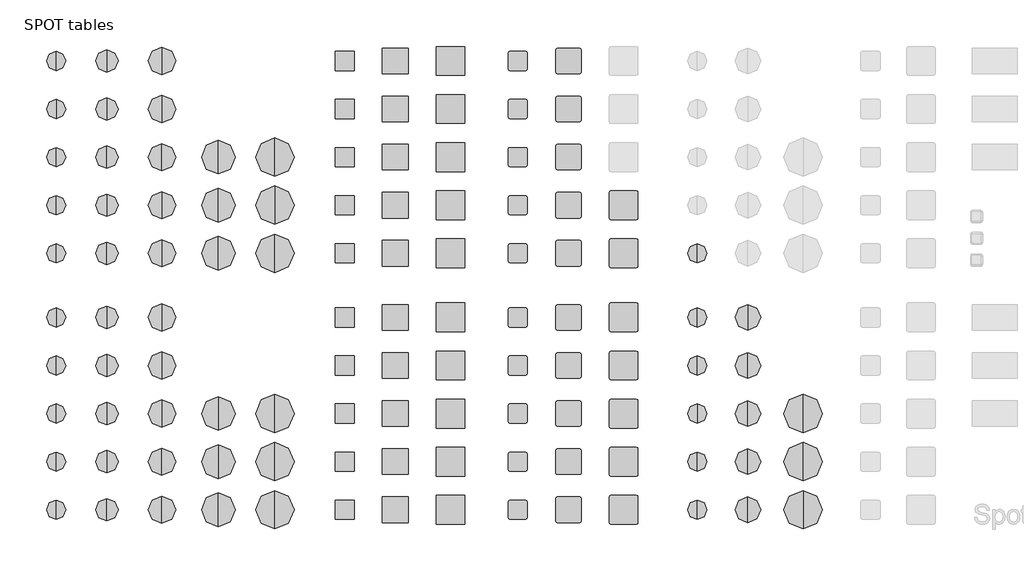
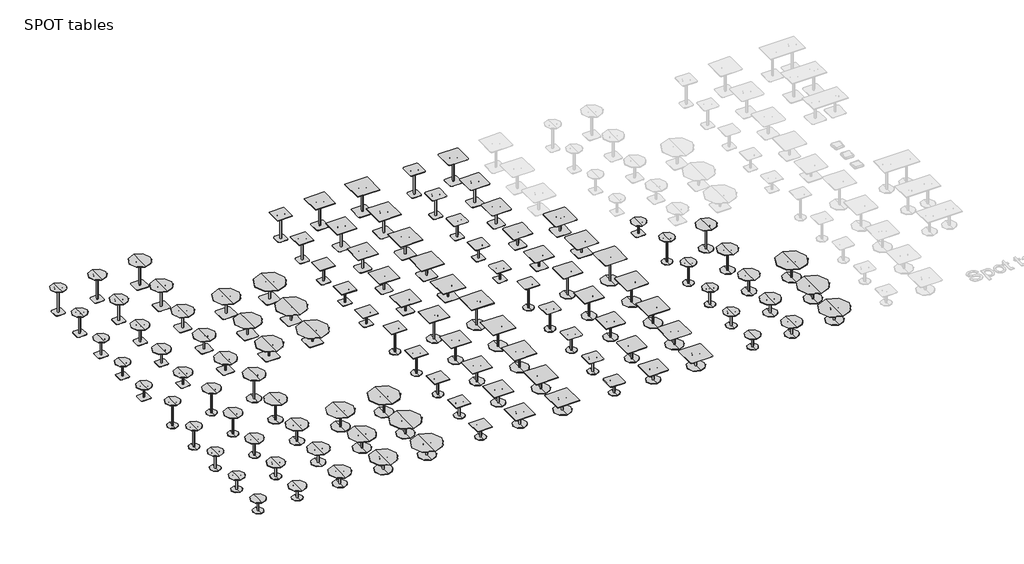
# One storey, part 1 of 2: 113 furniture elements.
"""IFC4 building model written with IfcOpenShell, lengths in millimetres."""

from ifc_helpers import new_model, si_unit, origin, place, context, project, spatial, transform, mapped, element, save
from components import spot_788d22cf, spot_77f59f46, spot_f92d73a3, spot_7a6d4907, spot_b00c288a, spot_5c1fb740, spot_8f7e254e, spot_f1b3041a, spot_e71004df, spot_e152b922, spot_dc493906, spot_94203717, spot_397b3017, spot_722c7204, spot_2d7e0fac, spot_172ff6e7, spot_859ae4ff, spot_044e7cc1, spot_855ccbda, spot_d83fc2bb, spot_dde6724e, spot_dc8d1580, spot_db446fd1, spot_7c4215b9, spot_16825962, spot_6ba45eee, spot_5e38e100, spot_d553f32d, spot_18fd03e7, spot_0e79f22b, spot_07b8c2ec, spot_2f719e33, spot_8b0f4b8c, spot_33e118e5, spot_6a54facb, spot_912e1f16, spot_f8256496, spot_ff8b2383, spot_f8e46d7b, spot_9efdca79, spot_f74180ac, spot_1583ca4d, spot_0e4fbe69, spot_f8519775, spot_78ec0b63, spot_0f59d7b9, spot_e74a4429, spot_76f3e95e, spot_e5f4c73c, spot_442aa7c8, spot_60x60x105_dea08df1, spot_60x60x105s_a13521a9, spot_60x60x52_7f1a1400, spot_60x60x52s_42c6ff7e, spot_60x60x60_39b3866d, spot_60x60x60s_075ac10b, spot_60x60x72_564218d8, spot_60x60x72s_653c7a8f, spot_60x60x90_c5017e09, spot_60x60x90s_9f3c50d7, spot_80x80x105_011185f3, spot_80x80x105s_d37524c9, spot_80x80x52_e6303654, spot_80x80x52s_1c6ba555, spot_80x80x60_5c8a2310, spot_80x80x60s_08ea5ed7, spot_80x80x72_5e2f6118, spot_80x80x72s_e60da51a, spot_80x80x90_f4485f4f, spot_80x80x90s_3f7a378e, spot_90x90x105_c4fba47d, spot_90x90x105s_59163803, spot_90x90x52_e2c43a36, spot_90x90x52s_cfe0d6f2, spot_90x90x60_5f5d6312, spot_90x90x60s_4290bd5d, spot_90x90x72_129e7565, spot_90x90x72s_e86aca1a, spot_90x90x90_a43f632c, spot_90x90x90s_c2216ceb, spot_b60x60x105_59c6a68b, spot_b60x60x105s_55f89e0a, spot_r60x60x52_19da6469, spot_b60x60x52s_51aa52b7, spot_b60x60x60_533987e2, spot_b60x60x60s_f05c2b11, spot_b60x60x72_e15ce815, spot_b60x60x72s_45c11713, spot_b60x60x90_900ca555, spot_b60x60x90s_d0aa6e54, spot_r80x80x105_da313f87, spot_r80x80x105s_0859b372, spot_r80x80x52_d650c14f, spot_r80x80x52s_7f408e5c, spot_r80x80x60_7e8cd580, spot_r80x80x60s_60a7aa05, spot_r80x80x72_c527adf2, spot_r80x80x72s_9ad5746e, spot_r80x80x90_a1dbbd4d, spot_r80x80x90s_71675172, spot_b90x90x105_485e2d16, spot_b90x90x52_c7cd3348, spot_b90x90x52s_b3a2c666, spot_b90x90x60_5a79fd71, spot_b90x90x60s_c98173cc, spot_b90x90x72_0c4ef9b4, spot_b90x90x90_36fc2e03

model = new_model("IFC4")

# Units and contexts
model_context = context("Model", 3, world=origin())
ifc_project = project(units=[si_unit("LENGTHUNIT", "METRE", prefix="MILLI")], contexts=[model_context])

# Site, building, storey
site = spatial("IfcSite", under=ifc_project)
building = spatial("IfcBuilding", under=site)
storey = spatial("IfcBuildingStorey", under=building, Name="SPOT tables", Elevation=0.0)

# Furniture
placement = place(None, origin())
spot_shape = spot_788d22cf(model_context)
element("IfcFurniture", 1, ObjectType="Spot : ø60x52", at=placement, inside=storey, context=model_context, shape_type="MappedRepresentation", body=[
    mapped(spot_shape, transform((-8578.4077201, 625.7539204, 0.0), x_axis=(1.0, 0.0, 0.0), y_axis=(0.0, 1.0, 0.0), z_axis=(0.0, 0.0, 1.0))),
])
spot_2_shape = spot_77f59f46(model_context)
element("IfcFurniture", 2, ObjectType="Spot : ø60x60", at=placement, inside=storey, context=model_context, shape_type="MappedRepresentation", body=[
    mapped(spot_2_shape, transform((-8578.4077201, 2125.7539204, 0.0), x_axis=(1.0, 0.0, 0.0), y_axis=(0.0, 1.0, 0.0), z_axis=(0.0, 0.0, 1.0))),
])
spot_3_shape = spot_f92d73a3(model_context)
element("IfcFurniture", 3, ObjectType="Spot : ø60x72", at=placement, inside=storey, context=model_context, shape_type="MappedRepresentation", body=[
    mapped(spot_3_shape, transform((-8578.4077201, 3625.7539204, 0.0), x_axis=(1.0, 0.0, 0.0), y_axis=(0.0, 1.0, 0.0), z_axis=(0.0, 0.0, 1.0))),
])
spot_4_shape = spot_7a6d4907(model_context)
element("IfcFurniture", 4, ObjectType="Spot : ø60x90", at=placement, inside=storey, context=model_context, shape_type="MappedRepresentation", body=[
    mapped(spot_4_shape, transform((-8578.4077201, 5125.7539204, 0.0), x_axis=(1.0, 0.0, 0.0), y_axis=(0.0, 1.0, 0.0), z_axis=(0.0, 0.0, 1.0))),
])
spot_5_shape = spot_b00c288a(model_context)
element("IfcFurniture", 5, ObjectType="Spot : ø60x105", at=placement, inside=storey, context=model_context, shape_type="MappedRepresentation", body=[
    mapped(spot_5_shape, transform((-8578.4077201, 6625.7539204, 0.0), x_axis=(1.0, 0.0, 0.0), y_axis=(0.0, 1.0, 0.0), z_axis=(0.0, 0.0, 1.0))),
])
spot_6_shape = spot_5c1fb740(model_context)
element("IfcFurniture", 6, ObjectType="Spot : ø70x52", at=placement, inside=storey, context=model_context, shape_type="MappedRepresentation", body=[
    mapped(spot_6_shape, transform((-6998.4077201, 625.7539204, 0.0), x_axis=(1.0, 0.0, 0.0), y_axis=(0.0, 1.0, 0.0), z_axis=(0.0, 0.0, 1.0))),
])
spot_7_shape = spot_8f7e254e(model_context)
element("IfcFurniture", 7, ObjectType="Spot : ø70x60", at=placement, inside=storey, context=model_context, shape_type="MappedRepresentation", body=[
    mapped(spot_7_shape, transform((-6998.4077201, 2125.7539204, 0.0), x_axis=(1.0, 0.0, 0.0), y_axis=(0.0, 1.0, 0.0), z_axis=(0.0, 0.0, 1.0))),
])
spot_8_shape = spot_f1b3041a(model_context)
element("IfcFurniture", 8, ObjectType="Spot : ø70x72", at=placement, inside=storey, context=model_context, shape_type="MappedRepresentation", body=[
    mapped(spot_8_shape, transform((-6998.4077201, 3625.7539204, 0.0), x_axis=(1.0, 0.0, 0.0), y_axis=(0.0, 1.0, 0.0), z_axis=(0.0, 0.0, 1.0))),
])
spot_9_shape = spot_e71004df(model_context)
element("IfcFurniture", 9, ObjectType="Spot : ø70x90", at=placement, inside=storey, context=model_context, shape_type="MappedRepresentation", body=[
    mapped(spot_9_shape, transform((-6998.4077201, 5125.7539204, 0.0), x_axis=(1.0, 0.0, 0.0), y_axis=(0.0, 1.0, 0.0), z_axis=(0.0, 0.0, 1.0))),
])
spot_10_shape = spot_e152b922(model_context)
element("IfcFurniture", 10, ObjectType="Spot : ø70x105", at=placement, inside=storey, context=model_context, shape_type="MappedRepresentation", body=[
    mapped(spot_10_shape, transform((-6998.4077201, 6625.7539204, 0.0), x_axis=(1.0, 0.0, 0.0), y_axis=(0.0, 1.0, 0.0), z_axis=(0.0, 0.0, 1.0))),
])
spot_11_shape = spot_dc493906(model_context)
element("IfcFurniture", 11, ObjectType="Spot : ø85x52", at=placement, inside=storey, context=model_context, shape_type="MappedRepresentation", body=[
    mapped(spot_11_shape, transform((-5278.4077201, 625.7539204, 0.0), x_axis=(1.0, 0.0, 0.0), y_axis=(0.0, 1.0, 0.0), z_axis=(0.0, 0.0, 1.0))),
])
spot_12_shape = spot_94203717(model_context)
element("IfcFurniture", 12, ObjectType="Spot : ø85x60", at=placement, inside=storey, context=model_context, shape_type="MappedRepresentation", body=[
    mapped(spot_12_shape, transform((-5278.4077201, 2125.7539204, 0.0), x_axis=(1.0, 0.0, 0.0), y_axis=(0.0, 1.0, 0.0), z_axis=(0.0, 0.0, 1.0))),
])
spot_13_shape = spot_397b3017(model_context)
element("IfcFurniture", 13, ObjectType="Spot : ø85x72", at=placement, inside=storey, context=model_context, shape_type="MappedRepresentation", body=[
    mapped(spot_13_shape, transform((-5278.4077201, 3625.7539204, 0.0), x_axis=(1.0, 0.0, 0.0), y_axis=(0.0, 1.0, 0.0), z_axis=(0.0, 0.0, 1.0))),
])
spot_14_shape = spot_722c7204(model_context)
element("IfcFurniture", 14, ObjectType="Spot : ø85x90", at=placement, inside=storey, context=model_context, shape_type="MappedRepresentation", body=[
    mapped(spot_14_shape, transform((-5278.4077201, 5125.7539204, 0.0), x_axis=(1.0, 0.0, 0.0), y_axis=(0.0, 1.0, 0.0), z_axis=(0.0, 0.0, 1.0))),
])
spot_15_shape = spot_2d7e0fac(model_context)
element("IfcFurniture", 15, ObjectType="Spot : ø85x105", at=placement, inside=storey, context=model_context, shape_type="MappedRepresentation", body=[
    mapped(spot_15_shape, transform((-5278.4077201, 6625.7539204, 0.0), x_axis=(1.0, 0.0, 0.0), y_axis=(0.0, 1.0, 0.0), z_axis=(0.0, 0.0, 1.0))),
])
spot_16_shape = spot_172ff6e7(model_context)
element("IfcFurniture", 16, ObjectType="Spot : ø60x52s", at=placement, inside=storey, context=model_context, shape_type="MappedRepresentation", body=[
    mapped(spot_16_shape, transform((-8578.4077201, 8625.7539204, 0.0), x_axis=(1.0, 0.0, 0.0), y_axis=(0.0, 1.0, 0.0), z_axis=(0.0, 0.0, 1.0))),
])
spot_17_shape = spot_859ae4ff(model_context)
element("IfcFurniture", 17, ObjectType="Spot : ø60x60s", at=placement, inside=storey, context=model_context, shape_type="MappedRepresentation", body=[
    mapped(spot_17_shape, transform((-8578.4077201, 10125.7539204, 0.0), x_axis=(1.0, 0.0, 0.0), y_axis=(0.0, 1.0, 0.0), z_axis=(0.0, 0.0, 1.0))),
])
spot_18_shape = spot_044e7cc1(model_context)
element("IfcFurniture", 18, ObjectType="Spot : ø60x72s", at=placement, inside=storey, context=model_context, shape_type="MappedRepresentation", body=[
    mapped(spot_18_shape, transform((-8578.4077201, 11625.7539204, 0.0), x_axis=(1.0, 0.0, 0.0), y_axis=(0.0, 1.0, 0.0), z_axis=(0.0, 0.0, 1.0))),
])
spot_19_shape = spot_855ccbda(model_context)
element("IfcFurniture", 19, ObjectType="Spot : ø60x90s", at=placement, inside=storey, context=model_context, shape_type="MappedRepresentation", body=[
    mapped(spot_19_shape, transform((-8578.4077201, 13125.7539204, 0.0), x_axis=(1.0, 0.0, 0.0), y_axis=(0.0, 1.0, 0.0), z_axis=(0.0, 0.0, 1.0))),
])
spot_20_shape = spot_d83fc2bb(model_context)
element("IfcFurniture", 20, ObjectType="Spot : ø60x105s", at=placement, inside=storey, context=model_context, shape_type="MappedRepresentation", body=[
    mapped(spot_20_shape, transform((-8578.4077201, 14625.7539204, 0.0), x_axis=(1.0, 0.0, 0.0), y_axis=(0.0, 1.0, 0.0), z_axis=(0.0, 0.0, 1.0))),
])
spot_21_shape = spot_dde6724e(model_context)
element("IfcFurniture", 21, ObjectType="Spot : ø70x52s", at=placement, inside=storey, context=model_context, shape_type="MappedRepresentation", body=[
    mapped(spot_21_shape, transform((-6998.4077201, 8625.7539204, 0.0), x_axis=(1.0, 0.0, 0.0), y_axis=(0.0, 1.0, 0.0), z_axis=(0.0, 0.0, 1.0))),
])
spot_22_shape = spot_dc8d1580(model_context)
element("IfcFurniture", 22, ObjectType="Spot : ø70x60s", at=placement, inside=storey, context=model_context, shape_type="MappedRepresentation", body=[
    mapped(spot_22_shape, transform((-6998.4077201, 10125.7539204, 0.0), x_axis=(1.0, 0.0, 0.0), y_axis=(0.0, 1.0, 0.0), z_axis=(0.0, 0.0, 1.0))),
])
spot_23_shape = spot_db446fd1(model_context)
element("IfcFurniture", 23, ObjectType="Spot : ø70x72s", at=placement, inside=storey, context=model_context, shape_type="MappedRepresentation", body=[
    mapped(spot_23_shape, transform((-6998.4077201, 11625.7539204, 0.0), x_axis=(1.0, 0.0, 0.0), y_axis=(0.0, 1.0, 0.0), z_axis=(0.0, 0.0, 1.0))),
])
spot_24_shape = spot_7c4215b9(model_context)
element("IfcFurniture", 24, ObjectType="Spot : ø70x90s", at=placement, inside=storey, context=model_context, shape_type="MappedRepresentation", body=[
    mapped(spot_24_shape, transform((-6998.4077201, 13125.7539204, 0.0), x_axis=(1.0, 0.0, 0.0), y_axis=(0.0, 1.0, 0.0), z_axis=(0.0, 0.0, 1.0))),
])
spot_25_shape = spot_16825962(model_context)
element("IfcFurniture", 25, ObjectType="Spot : ø70x105s", at=placement, inside=storey, context=model_context, shape_type="MappedRepresentation", body=[
    mapped(spot_25_shape, transform((-6998.4077201, 14625.7539204, 0.0), x_axis=(1.0, 0.0, 0.0), y_axis=(0.0, 1.0, 0.0), z_axis=(0.0, 0.0, 1.0))),
])
spot_26_shape = spot_6ba45eee(model_context)
element("IfcFurniture", 26, ObjectType="Spot : ø85x52s", at=placement, inside=storey, context=model_context, shape_type="MappedRepresentation", body=[
    mapped(spot_26_shape, transform((-5278.4077201, 8625.7539204, 0.0), x_axis=(1.0, 0.0, 0.0), y_axis=(0.0, 1.0, 0.0), z_axis=(0.0, 0.0, 1.0))),
])
spot_27_shape = spot_5e38e100(model_context)
element("IfcFurniture", 27, ObjectType="Spot : ø85x60s", at=placement, inside=storey, context=model_context, shape_type="MappedRepresentation", body=[
    mapped(spot_27_shape, transform((-5278.4077201, 10125.7539204, 0.0), x_axis=(1.0, 0.0, 0.0), y_axis=(0.0, 1.0, 0.0), z_axis=(0.0, 0.0, 1.0))),
])
spot_28_shape = spot_d553f32d(model_context)
element("IfcFurniture", 28, ObjectType="Spot : ø85x72s", at=placement, inside=storey, context=model_context, shape_type="MappedRepresentation", body=[
    mapped(spot_28_shape, transform((-5278.4077201, 11625.7539204, 0.0), x_axis=(1.0, 0.0, 0.0), y_axis=(0.0, 1.0, 0.0), z_axis=(0.0, 0.0, 1.0))),
])
spot_29_shape = spot_18fd03e7(model_context)
element("IfcFurniture", 29, ObjectType="Spot : ø85x90s", at=placement, inside=storey, context=model_context, shape_type="MappedRepresentation", body=[
    mapped(spot_29_shape, transform((-5278.4077201, 13125.7539204, 0.0), x_axis=(1.0, 0.0, 0.0), y_axis=(0.0, 1.0, 0.0), z_axis=(0.0, 0.0, 1.0))),
])
spot_30_shape = spot_0e79f22b(model_context)
element("IfcFurniture", 30, ObjectType="Spot : ø85x105s", at=placement, inside=storey, context=model_context, shape_type="MappedRepresentation", body=[
    mapped(spot_30_shape, transform((-5278.4077201, 14625.7539204, 0.0), x_axis=(1.0, 0.0, 0.0), y_axis=(0.0, 1.0, 0.0), z_axis=(0.0, 0.0, 1.0))),
])
spot_31_shape = spot_07b8c2ec(model_context)
element("IfcFurniture", 31, ObjectType="Spot : ø105x52", at=placement, inside=storey, context=model_context, shape_type="MappedRepresentation", body=[
    mapped(spot_31_shape, transform((-3518.4077201, 625.7539204, 0.0), x_axis=(1.0, 0.0, 0.0), y_axis=(0.0, 1.0, 0.0), z_axis=(0.0, 0.0, 1.0))),
])
spot_32_shape = spot_2f719e33(model_context)
element("IfcFurniture", 32, ObjectType="Spot : ø105x60", at=placement, inside=storey, context=model_context, shape_type="MappedRepresentation", body=[
    mapped(spot_32_shape, transform((-3518.4077201, 2125.7539204, 0.0), x_axis=(1.0, 0.0, 0.0), y_axis=(0.0, 1.0, 0.0), z_axis=(0.0, 0.0, 1.0))),
])
spot_33_shape = spot_8b0f4b8c(model_context)
element("IfcFurniture", 33, ObjectType="Spot : ø105x72", at=placement, inside=storey, context=model_context, shape_type="MappedRepresentation", body=[
    mapped(spot_33_shape, transform((-3518.4077201, 3625.7539204, 0.0), x_axis=(1.0, 0.0, 0.0), y_axis=(0.0, 1.0, 0.0), z_axis=(0.0, 0.0, 1.0))),
])
spot_34_shape = spot_33e118e5(model_context)
element("IfcFurniture", 34, ObjectType="Spot : ø105x52s", at=placement, inside=storey, context=model_context, shape_type="MappedRepresentation", body=[
    mapped(spot_34_shape, transform((-3518.4077201, 8625.7539204, 0.0), x_axis=(1.0, 0.0, 0.0), y_axis=(0.0, 1.0, 0.0), z_axis=(0.0, 0.0, 1.0))),
])
spot_35_shape = spot_6a54facb(model_context)
element("IfcFurniture", 35, ObjectType="Spot : ø105x60s", at=placement, inside=storey, context=model_context, shape_type="MappedRepresentation", body=[
    mapped(spot_35_shape, transform((-3518.4077201, 10125.7539204, 0.0), x_axis=(1.0, 0.0, 0.0), y_axis=(0.0, 1.0, 0.0), z_axis=(0.0, 0.0, 1.0))),
])
spot_36_shape = spot_912e1f16(model_context)
element("IfcFurniture", 36, ObjectType="Spot : ø105x72s", at=placement, inside=storey, context=model_context, shape_type="MappedRepresentation", body=[
    mapped(spot_36_shape, transform((-3518.4077201, 11625.7539204, 0.0), x_axis=(1.0, 0.0, 0.0), y_axis=(0.0, 1.0, 0.0), z_axis=(0.0, 0.0, 1.0))),
])
spot_37_shape = spot_f8256496(model_context)
element("IfcFurniture", 37, ObjectType="Spot : ø120x52", at=placement, inside=storey, context=model_context, shape_type="MappedRepresentation", body=[
    mapped(spot_37_shape, transform((-1758.4077201, 625.7539204, 0.0), x_axis=(1.0, 0.0, 0.0), y_axis=(0.0, 1.0, 0.0), z_axis=(0.0, 0.0, 1.0))),
])
spot_38_shape = spot_ff8b2383(model_context)
element("IfcFurniture", 38, ObjectType="Spot : ø120x60", at=placement, inside=storey, context=model_context, shape_type="MappedRepresentation", body=[
    mapped(spot_38_shape, transform((-1758.4077201, 2125.7539204, 0.0), x_axis=(1.0, 0.0, 0.0), y_axis=(0.0, 1.0, 0.0), z_axis=(0.0, 0.0, 1.0))),
])
spot_39_shape = spot_f8e46d7b(model_context)
element("IfcFurniture", 39, ObjectType="Spot : ø120x72", at=placement, inside=storey, context=model_context, shape_type="MappedRepresentation", body=[
    mapped(spot_39_shape, transform((-1758.4077201, 3625.7539204, 0.0), x_axis=(1.0, 0.0, 0.0), y_axis=(0.0, 1.0, 0.0), z_axis=(0.0, 0.0, 1.0))),
])
spot_40_shape = spot_9efdca79(model_context)
element("IfcFurniture", 40, ObjectType="Spot : ø120x52s", at=placement, inside=storey, context=model_context, shape_type="MappedRepresentation", body=[
    mapped(spot_40_shape, transform((-1758.4077201, 8625.7539204, 0.0), x_axis=(1.0, 0.0, 0.0), y_axis=(0.0, 1.0, 0.0), z_axis=(0.0, 0.0, 1.0))),
])
spot_41_shape = spot_f74180ac(model_context)
element("IfcFurniture", 41, ObjectType="Spot : ø120x60s", at=placement, inside=storey, context=model_context, shape_type="MappedRepresentation", body=[
    mapped(spot_41_shape, transform((-1758.4077201, 10125.7539204, 0.0), x_axis=(1.0, 0.0, 0.0), y_axis=(0.0, 1.0, 0.0), z_axis=(0.0, 0.0, 1.0))),
])
spot_42_shape = spot_1583ca4d(model_context)
element("IfcFurniture", 42, ObjectType="Spot : ø120x72s", at=placement, inside=storey, context=model_context, shape_type="MappedRepresentation", body=[
    mapped(spot_42_shape, transform((-1758.4077201, 11625.7539204, 0.0), x_axis=(1.0, 0.0, 0.0), y_axis=(0.0, 1.0, 0.0), z_axis=(0.0, 0.0, 1.0))),
])
element("IfcFurniture", 43, ObjectType="Spot : Bø60x52", at=placement, inside=storey, context=model_context, shape_type="MappedRepresentation", body=[
    mapped(spot_shape, transform((11421.5922799, 625.7539204, 0.0), x_axis=(1.0, 0.0, 0.0), y_axis=(0.0, 1.0, 0.0), z_axis=(0.0, 0.0, 1.0))),
])
element("IfcFurniture", 44, ObjectType="Spot : Bø60x60", at=placement, inside=storey, context=model_context, shape_type="MappedRepresentation", body=[
    mapped(spot_2_shape, transform((11421.5922799, 2125.7539204, 0.0), x_axis=(1.0, 0.0, 0.0), y_axis=(0.0, 1.0, 0.0), z_axis=(0.0, 0.0, 1.0))),
])
spot_43_shape = spot_0e4fbe69(model_context)
element("IfcFurniture", 45, ObjectType="Spot : Bø60x72", at=placement, inside=storey, context=model_context, shape_type="MappedRepresentation", body=[
    mapped(spot_43_shape, transform((11421.5922799, 3625.7539204, 0.0), x_axis=(1.0, 0.0, 0.0), y_axis=(0.0, 1.0, 0.0), z_axis=(0.0, 0.0, 1.0))),
])
element("IfcFurniture", 46, ObjectType="Spot : Bø60x90", at=placement, inside=storey, context=model_context, shape_type="MappedRepresentation", body=[
    mapped(spot_4_shape, transform((11421.5922799, 5125.7539204, 0.0), x_axis=(1.0, 0.0, 0.0), y_axis=(0.0, 1.0, 0.0), z_axis=(0.0, 0.0, 1.0))),
])
spot_44_shape = spot_f8519775(model_context)
element("IfcFurniture", 47, ObjectType="Spot : Bø60x105", at=placement, inside=storey, context=model_context, shape_type="MappedRepresentation", body=[
    mapped(spot_44_shape, transform((11421.5922799, 6625.7539204, 0.0), x_axis=(1.0, 0.0, 0.0), y_axis=(0.0, 1.0, 0.0), z_axis=(0.0, 0.0, 1.0))),
])
spot_45_shape = spot_78ec0b63(model_context)
element("IfcFurniture", 48, ObjectType="Spot : Bø80x52", at=placement, inside=storey, context=model_context, shape_type="MappedRepresentation", body=[
    mapped(spot_45_shape, transform((13001.5922799, 625.7539204, 0.0), x_axis=(1.0, 0.0, 0.0), y_axis=(0.0, 1.0, 0.0), z_axis=(0.0, 0.0, 1.0))),
])
spot_46_shape = spot_0f59d7b9(model_context)
element("IfcFurniture", 49, ObjectType="Spot : Bø80x60", at=placement, inside=storey, context=model_context, shape_type="MappedRepresentation", body=[
    mapped(spot_46_shape, transform((13001.5922799, 2125.7539204, 0.0), x_axis=(1.0, 0.0, 0.0), y_axis=(0.0, 1.0, 0.0), z_axis=(0.0, 0.0, 1.0))),
])
spot_47_shape = spot_e74a4429(model_context)
element("IfcFurniture", 50, ObjectType="Spot : Bø80x72", at=placement, inside=storey, context=model_context, shape_type="MappedRepresentation", body=[
    mapped(spot_47_shape, transform((13001.5922799, 3625.7539204, 0.0), x_axis=(1.0, 0.0, 0.0), y_axis=(0.0, 1.0, 0.0), z_axis=(0.0, 0.0, 1.0))),
])
spot_48_shape = spot_76f3e95e(model_context)
element("IfcFurniture", 51, ObjectType="Spot : Bø80x90", at=placement, inside=storey, context=model_context, shape_type="MappedRepresentation", body=[
    mapped(spot_48_shape, transform((13001.5922799, 5125.7539204, 0.0), x_axis=(1.0, 0.0, 0.0), y_axis=(0.0, 1.0, 0.0), z_axis=(0.0, 0.0, 1.0))),
])
spot_49_shape = spot_e5f4c73c(model_context)
element("IfcFurniture", 52, ObjectType="Spot : Bø80x105", at=placement, inside=storey, context=model_context, shape_type="MappedRepresentation", body=[
    mapped(spot_49_shape, transform((13001.5922799, 6625.7539204, 0.0), x_axis=(1.0, 0.0, 0.0), y_axis=(0.0, 1.0, 0.0), z_axis=(0.0, 0.0, 1.0))),
])
spot_50_shape = spot_442aa7c8(model_context)
element("IfcFurniture", 53, ObjectType="Spot : Bø120x52", at=placement, inside=storey, context=model_context, shape_type="MappedRepresentation", body=[
    mapped(spot_50_shape, transform((14721.5922799, 625.7539204, 0.0), x_axis=(1.0, 0.0, 0.0), y_axis=(0.0, 1.0, 0.0), z_axis=(0.0, 0.0, 1.0))),
])
element("IfcFurniture", 54, ObjectType="Spot : Bø120x60", at=placement, inside=storey, context=model_context, shape_type="MappedRepresentation", body=[
    mapped(spot_38_shape, transform((14721.5922799, 2125.7539204, 0.0), x_axis=(1.0, 0.0, 0.0), y_axis=(0.0, 1.0, 0.0), z_axis=(0.0, 0.0, 1.0))),
])
element("IfcFurniture", 55, ObjectType="Spot : Bø60x52s", at=placement, inside=storey, context=model_context, shape_type="MappedRepresentation", body=[
    mapped(spot_16_shape, transform((11421.5922799, 8625.7539204, 0.0), x_axis=(1.0, 0.0, 0.0), y_axis=(0.0, 1.0, 0.0), z_axis=(0.0, 0.0, 1.0))),
])
element("IfcFurniture", 56, ObjectType="Spot : Bø120x72", at=placement, inside=storey, context=model_context, shape_type="MappedRepresentation", body=[
    mapped(spot_39_shape, transform((14721.5922799, 3625.7539204, 0.0), x_axis=(1.0, 0.0, 0.0), y_axis=(0.0, 1.0, 0.0), z_axis=(0.0, 0.0, 1.0))),
])
spot_60x60x105_shape = spot_60x60x105_dea08df1(model_context)
element("IfcFurniture", 57, ObjectType="Spot : 60x60x105", at=placement, inside=storey, context=model_context, shape_type="MappedRepresentation", body=[
    mapped(spot_60x60x105_shape, transform((421.5922799, 6625.7539204, 0.0), x_axis=(1.0, 0.0, 0.0), y_axis=(0.0, 1.0, 0.0), z_axis=(0.0, 0.0, 1.0))),
])
spot_60x60x105s_shape = spot_60x60x105s_a13521a9(model_context)
element("IfcFurniture", 58, ObjectType="Spot : 60x60x105s", at=placement, inside=storey, context=model_context, shape_type="MappedRepresentation", body=[
    mapped(spot_60x60x105s_shape, transform((421.5922799, 14625.7539204, 0.0), x_axis=(1.0, 0.0, 0.0), y_axis=(0.0, 1.0, 0.0), z_axis=(0.0, 0.0, 1.0))),
])
spot_60x60x52_shape = spot_60x60x52_7f1a1400(model_context)
element("IfcFurniture", 59, ObjectType="Spot : 60x60x52", at=placement, inside=storey, context=model_context, shape_type="MappedRepresentation", body=[
    mapped(spot_60x60x52_shape, transform((421.5922799, 625.7539204, 0.0), x_axis=(1.0, 0.0, 0.0), y_axis=(0.0, 1.0, 0.0), z_axis=(0.0, 0.0, 1.0))),
])
spot_60x60x52s_shape = spot_60x60x52s_42c6ff7e(model_context)
element("IfcFurniture", 60, ObjectType="Spot : 60x60x52s", at=placement, inside=storey, context=model_context, shape_type="MappedRepresentation", body=[
    mapped(spot_60x60x52s_shape, transform((421.5922799, 8625.7539204, 0.0), x_axis=(1.0, 0.0, 0.0), y_axis=(0.0, 1.0, 0.0), z_axis=(0.0, 0.0, 1.0))),
])
spot_60x60x60_shape = spot_60x60x60_39b3866d(model_context)
element("IfcFurniture", 61, ObjectType="Spot : 60x60x60", at=placement, inside=storey, context=model_context, shape_type="MappedRepresentation", body=[
    mapped(spot_60x60x60_shape, transform((421.5922799, 2125.7539204, 0.0), x_axis=(1.0, 0.0, 0.0), y_axis=(0.0, 1.0, 0.0), z_axis=(0.0, 0.0, 1.0))),
])
spot_60x60x60s_shape = spot_60x60x60s_075ac10b(model_context)
element("IfcFurniture", 62, ObjectType="Spot : 60x60x60s", at=placement, inside=storey, context=model_context, shape_type="MappedRepresentation", body=[
    mapped(spot_60x60x60s_shape, transform((421.5922799, 10125.7539204, 0.0), x_axis=(1.0, 0.0, 0.0), y_axis=(0.0, 1.0, 0.0), z_axis=(0.0, 0.0, 1.0))),
])
spot_60x60x72_shape = spot_60x60x72_564218d8(model_context)
element("IfcFurniture", 63, ObjectType="Spot : 60x60x72", at=placement, inside=storey, context=model_context, shape_type="MappedRepresentation", body=[
    mapped(spot_60x60x72_shape, transform((421.5922799, 3625.7539204, 0.0), x_axis=(1.0, 0.0, 0.0), y_axis=(0.0, 1.0, 0.0), z_axis=(0.0, 0.0, 1.0))),
])
spot_60x60x72s_shape = spot_60x60x72s_653c7a8f(model_context)
element("IfcFurniture", 64, ObjectType="Spot : 60x60x72s", at=placement, inside=storey, context=model_context, shape_type="MappedRepresentation", body=[
    mapped(spot_60x60x72s_shape, transform((421.5922799, 11625.7539204, 0.0), x_axis=(1.0, 0.0, 0.0), y_axis=(0.0, 1.0, 0.0), z_axis=(0.0, 0.0, 1.0))),
])
spot_60x60x90_shape = spot_60x60x90_c5017e09(model_context)
element("IfcFurniture", 65, ObjectType="Spot : 60x60x90", at=placement, inside=storey, context=model_context, shape_type="MappedRepresentation", body=[
    mapped(spot_60x60x90_shape, transform((421.5922799, 5125.7539204, 0.0), x_axis=(1.0, 0.0, 0.0), y_axis=(0.0, 1.0, 0.0), z_axis=(0.0, 0.0, 1.0))),
])
spot_60x60x90s_shape = spot_60x60x90s_9f3c50d7(model_context)
element("IfcFurniture", 66, ObjectType="Spot : 60x60x90s", at=placement, inside=storey, context=model_context, shape_type="MappedRepresentation", body=[
    mapped(spot_60x60x90s_shape, transform((421.5922799, 13125.7539204, 0.0), x_axis=(1.0, 0.0, 0.0), y_axis=(0.0, 1.0, 0.0), z_axis=(0.0, 0.0, 1.0))),
])
spot_80x80x105_shape = spot_80x80x105_011185f3(model_context)
element("IfcFurniture", 67, ObjectType="Spot : 80x80x105", at=placement, inside=storey, context=model_context, shape_type="MappedRepresentation", body=[
    mapped(spot_80x80x105_shape, transform((2001.5922799, 6625.7539204, 0.0), x_axis=(1.0, 0.0, 0.0), y_axis=(0.0, 1.0, 0.0), z_axis=(0.0, 0.0, 1.0))),
])
spot_80x80x105s_shape = spot_80x80x105s_d37524c9(model_context)
element("IfcFurniture", 68, ObjectType="Spot : 80x80x105s", at=placement, inside=storey, context=model_context, shape_type="MappedRepresentation", body=[
    mapped(spot_80x80x105s_shape, transform((2001.5922799, 14625.7539204, 0.0), x_axis=(1.0, 0.0, 0.0), y_axis=(0.0, 1.0, 0.0), z_axis=(0.0, 0.0, 1.0))),
])
spot_80x80x52_shape = spot_80x80x52_e6303654(model_context)
element("IfcFurniture", 69, ObjectType="Spot : 80x80x52", at=placement, inside=storey, context=model_context, shape_type="MappedRepresentation", body=[
    mapped(spot_80x80x52_shape, transform((2001.5922799, 625.7539204, 0.0), x_axis=(1.0, 0.0, 0.0), y_axis=(0.0, 1.0, 0.0), z_axis=(0.0, 0.0, 1.0))),
])
spot_80x80x52s_shape = spot_80x80x52s_1c6ba555(model_context)
element("IfcFurniture", 70, ObjectType="Spot : 80x80x52s", at=placement, inside=storey, context=model_context, shape_type="MappedRepresentation", body=[
    mapped(spot_80x80x52s_shape, transform((2001.5922799, 8625.7539204, 0.0), x_axis=(1.0, 0.0, 0.0), y_axis=(0.0, 1.0, 0.0), z_axis=(0.0, 0.0, 1.0))),
])
spot_80x80x60_shape = spot_80x80x60_5c8a2310(model_context)
element("IfcFurniture", 71, ObjectType="Spot : 80x80x60", at=placement, inside=storey, context=model_context, shape_type="MappedRepresentation", body=[
    mapped(spot_80x80x60_shape, transform((2001.5922799, 2125.7539204, 0.0), x_axis=(1.0, 0.0, 0.0), y_axis=(0.0, 1.0, 0.0), z_axis=(0.0, 0.0, 1.0))),
])
spot_80x80x60s_shape = spot_80x80x60s_08ea5ed7(model_context)
element("IfcFurniture", 72, ObjectType="Spot : 80x80x60s", at=placement, inside=storey, context=model_context, shape_type="MappedRepresentation", body=[
    mapped(spot_80x80x60s_shape, transform((2001.5922799, 10125.7539204, 0.0), x_axis=(1.0, 0.0, 0.0), y_axis=(0.0, 1.0, 0.0), z_axis=(0.0, 0.0, 1.0))),
])
spot_80x80x72_shape = spot_80x80x72_5e2f6118(model_context)
element("IfcFurniture", 73, ObjectType="Spot : 80x80x72", at=placement, inside=storey, context=model_context, shape_type="MappedRepresentation", body=[
    mapped(spot_80x80x72_shape, transform((2001.5922799, 3625.7539204, 0.0), x_axis=(1.0, 0.0, 0.0), y_axis=(0.0, 1.0, 0.0), z_axis=(0.0, 0.0, 1.0))),
])
spot_80x80x72s_shape = spot_80x80x72s_e60da51a(model_context)
element("IfcFurniture", 74, ObjectType="Spot : 80x80x72s", at=placement, inside=storey, context=model_context, shape_type="MappedRepresentation", body=[
    mapped(spot_80x80x72s_shape, transform((2001.5922799, 11625.7539204, 0.0), x_axis=(1.0, 0.0, 0.0), y_axis=(0.0, 1.0, 0.0), z_axis=(0.0, 0.0, 1.0))),
])
spot_80x80x90_shape = spot_80x80x90_f4485f4f(model_context)
element("IfcFurniture", 75, ObjectType="Spot : 80x80x90", at=placement, inside=storey, context=model_context, shape_type="MappedRepresentation", body=[
    mapped(spot_80x80x90_shape, transform((2001.5922799, 5125.7539204, 0.0), x_axis=(1.0, 0.0, 0.0), y_axis=(0.0, 1.0, 0.0), z_axis=(0.0, 0.0, 1.0))),
])
spot_80x80x90s_shape = spot_80x80x90s_3f7a378e(model_context)
element("IfcFurniture", 76, ObjectType="Spot : 80x80x90s", at=placement, inside=storey, context=model_context, shape_type="MappedRepresentation", body=[
    mapped(spot_80x80x90s_shape, transform((2001.5922799, 13125.7539204, 0.0), x_axis=(1.0, 0.0, 0.0), y_axis=(0.0, 1.0, 0.0), z_axis=(0.0, 0.0, 1.0))),
])
spot_90x90x105_shape = spot_90x90x105_c4fba47d(model_context)
element("IfcFurniture", 77, ObjectType="Spot : 90x90x105", at=placement, inside=storey, context=model_context, shape_type="MappedRepresentation", body=[
    mapped(spot_90x90x105_shape, transform((3721.5922799, 6625.7539204, 0.0), x_axis=(1.0, 0.0, 0.0), y_axis=(0.0, 1.0, 0.0), z_axis=(0.0, 0.0, 1.0))),
])
spot_90x90x105s_shape = spot_90x90x105s_59163803(model_context)
element("IfcFurniture", 78, ObjectType="Spot : 90x90x105s", at=placement, inside=storey, context=model_context, shape_type="MappedRepresentation", body=[
    mapped(spot_90x90x105s_shape, transform((3721.5922799, 14625.7539204, 0.0), x_axis=(1.0, 0.0, 0.0), y_axis=(0.0, 1.0, 0.0), z_axis=(0.0, 0.0, 1.0))),
])
spot_90x90x52_shape = spot_90x90x52_e2c43a36(model_context)
element("IfcFurniture", 79, ObjectType="Spot : 90x90x52", at=placement, inside=storey, context=model_context, shape_type="MappedRepresentation", body=[
    mapped(spot_90x90x52_shape, transform((3721.5922799, 625.7539204, 0.0), x_axis=(1.0, 0.0, 0.0), y_axis=(0.0, 1.0, 0.0), z_axis=(0.0, 0.0, 1.0))),
])
spot_90x90x52s_shape = spot_90x90x52s_cfe0d6f2(model_context)
element("IfcFurniture", 80, ObjectType="Spot : 90x90x52s", at=placement, inside=storey, context=model_context, shape_type="MappedRepresentation", body=[
    mapped(spot_90x90x52s_shape, transform((3721.5922799, 8625.7539204, 0.0), x_axis=(1.0, 0.0, 0.0), y_axis=(0.0, 1.0, 0.0), z_axis=(0.0, 0.0, 1.0))),
])
spot_90x90x60_shape = spot_90x90x60_5f5d6312(model_context)
element("IfcFurniture", 81, ObjectType="Spot : 90x90x60", at=placement, inside=storey, context=model_context, shape_type="MappedRepresentation", body=[
    mapped(spot_90x90x60_shape, transform((3721.5922799, 2125.7539204, 0.0), x_axis=(1.0, 0.0, 0.0), y_axis=(0.0, 1.0, 0.0), z_axis=(0.0, 0.0, 1.0))),
])
spot_90x90x60s_shape = spot_90x90x60s_4290bd5d(model_context)
element("IfcFurniture", 82, ObjectType="Spot : 90x90x60s", at=placement, inside=storey, context=model_context, shape_type="MappedRepresentation", body=[
    mapped(spot_90x90x60s_shape, transform((3721.5922799, 10125.7539204, 0.0), x_axis=(1.0, 0.0, 0.0), y_axis=(0.0, 1.0, 0.0), z_axis=(0.0, 0.0, 1.0))),
])
spot_90x90x72_shape = spot_90x90x72_129e7565(model_context)
element("IfcFurniture", 83, ObjectType="Spot : 90x90x72", at=placement, inside=storey, context=model_context, shape_type="MappedRepresentation", body=[
    mapped(spot_90x90x72_shape, transform((3721.5922799, 3625.7539204, 0.0), x_axis=(1.0, 0.0, 0.0), y_axis=(0.0, 1.0, 0.0), z_axis=(0.0, 0.0, 1.0))),
])
spot_90x90x72s_shape = spot_90x90x72s_e86aca1a(model_context)
element("IfcFurniture", 84, ObjectType="Spot : 90x90x72s", at=placement, inside=storey, context=model_context, shape_type="MappedRepresentation", body=[
    mapped(spot_90x90x72s_shape, transform((3721.5922799, 11625.7539204, 0.0), x_axis=(1.0, 0.0, 0.0), y_axis=(0.0, 1.0, 0.0), z_axis=(0.0, 0.0, 1.0))),
])
spot_90x90x90_shape = spot_90x90x90_a43f632c(model_context)
element("IfcFurniture", 85, ObjectType="Spot : 90x90x90", at=placement, inside=storey, context=model_context, shape_type="MappedRepresentation", body=[
    mapped(spot_90x90x90_shape, transform((3721.5922799, 5125.7539204, 0.0), x_axis=(1.0, 0.0, 0.0), y_axis=(0.0, 1.0, 0.0), z_axis=(0.0, 0.0, 1.0))),
])
spot_90x90x90s_shape = spot_90x90x90s_c2216ceb(model_context)
element("IfcFurniture", 86, ObjectType="Spot : 90x90x90s", at=placement, inside=storey, context=model_context, shape_type="MappedRepresentation", body=[
    mapped(spot_90x90x90s_shape, transform((3721.5922799, 13125.7539204, 0.0), x_axis=(1.0, 0.0, 0.0), y_axis=(0.0, 1.0, 0.0), z_axis=(0.0, 0.0, 1.0))),
])
spot_b60x60x105_shape = spot_b60x60x105_59c6a68b(model_context)
element("IfcFurniture", 87, ObjectType="Spot : R60x60x105", at=placement, inside=storey, context=model_context, shape_type="MappedRepresentation", body=[
    mapped(spot_b60x60x105_shape, transform((5821.5922799, 6625.7539204, 0.0), x_axis=(1.0, 0.0, 0.0), y_axis=(0.0, 1.0, 0.0), z_axis=(0.0, 0.0, 1.0))),
])
spot_b60x60x105s_shape = spot_b60x60x105s_55f89e0a(model_context)
element("IfcFurniture", 88, ObjectType="Spot : R60x60x105s", at=placement, inside=storey, context=model_context, shape_type="MappedRepresentation", body=[
    mapped(spot_b60x60x105s_shape, transform((5821.5922799, 14625.7539204, 0.0), x_axis=(1.0, 0.0, 0.0), y_axis=(0.0, 1.0, 0.0), z_axis=(0.0, 0.0, 1.0))),
])
spot_r60x60x52_shape = spot_r60x60x52_19da6469(model_context)
element("IfcFurniture", 89, ObjectType="Spot : R60x60x52", at=placement, inside=storey, context=model_context, shape_type="MappedRepresentation", body=[
    mapped(spot_r60x60x52_shape, transform((5821.5922799, 625.7539204, 0.0), x_axis=(1.0, 0.0, 0.0), y_axis=(0.0, 1.0, 0.0), z_axis=(0.0, 0.0, 1.0))),
])
spot_b60x60x52s_shape = spot_b60x60x52s_51aa52b7(model_context)
element("IfcFurniture", 90, ObjectType="Spot : R60x60x52s", at=placement, inside=storey, context=model_context, shape_type="MappedRepresentation", body=[
    mapped(spot_b60x60x52s_shape, transform((5821.5922799, 8625.7539204, 0.0), x_axis=(1.0, 0.0, 0.0), y_axis=(0.0, 1.0, 0.0), z_axis=(0.0, 0.0, 1.0))),
])
spot_b60x60x60_shape = spot_b60x60x60_533987e2(model_context)
element("IfcFurniture", 91, ObjectType="Spot : R60x60x60", at=placement, inside=storey, context=model_context, shape_type="MappedRepresentation", body=[
    mapped(spot_b60x60x60_shape, transform((5821.5922799, 2125.7539204, 0.0), x_axis=(1.0, 0.0, 0.0), y_axis=(0.0, 1.0, 0.0), z_axis=(0.0, 0.0, 1.0))),
])
spot_b60x60x60s_shape = spot_b60x60x60s_f05c2b11(model_context)
element("IfcFurniture", 92, ObjectType="Spot : R60x60x60s", at=placement, inside=storey, context=model_context, shape_type="MappedRepresentation", body=[
    mapped(spot_b60x60x60s_shape, transform((5821.5922799, 10125.7539204, 0.0), x_axis=(1.0, 0.0, 0.0), y_axis=(0.0, 1.0, 0.0), z_axis=(0.0, 0.0, 1.0))),
])
spot_b60x60x72_shape = spot_b60x60x72_e15ce815(model_context)
element("IfcFurniture", 93, ObjectType="Spot : R60x60x72", at=placement, inside=storey, context=model_context, shape_type="MappedRepresentation", body=[
    mapped(spot_b60x60x72_shape, transform((5821.5922799, 3625.7539204, 0.0), x_axis=(1.0, 0.0, 0.0), y_axis=(0.0, 1.0, 0.0), z_axis=(0.0, 0.0, 1.0))),
])
spot_b60x60x72s_shape = spot_b60x60x72s_45c11713(model_context)
element("IfcFurniture", 94, ObjectType="Spot : R60x60x72s", at=placement, inside=storey, context=model_context, shape_type="MappedRepresentation", body=[
    mapped(spot_b60x60x72s_shape, transform((5821.5922799, 11625.7539204, 0.0), x_axis=(1.0, 0.0, 0.0), y_axis=(0.0, 1.0, 0.0), z_axis=(0.0, 0.0, 1.0))),
])
spot_b60x60x90_shape = spot_b60x60x90_900ca555(model_context)
element("IfcFurniture", 95, ObjectType="Spot : R60x60x90", at=placement, inside=storey, context=model_context, shape_type="MappedRepresentation", body=[
    mapped(spot_b60x60x90_shape, transform((5821.5922799, 5125.7539204, 0.0), x_axis=(1.0, 0.0, 0.0), y_axis=(0.0, 1.0, 0.0), z_axis=(0.0, 0.0, 1.0))),
])
spot_b60x60x90s_shape = spot_b60x60x90s_d0aa6e54(model_context)
element("IfcFurniture", 96, ObjectType="Spot : R60x60x90s", at=placement, inside=storey, context=model_context, shape_type="MappedRepresentation", body=[
    mapped(spot_b60x60x90s_shape, transform((5821.5922799, 13125.7539204, 0.0), x_axis=(1.0, 0.0, 0.0), y_axis=(0.0, 1.0, 0.0), z_axis=(0.0, 0.0, 1.0))),
])
spot_r80x80x105_shape = spot_r80x80x105_da313f87(model_context)
element("IfcFurniture", 97, ObjectType="Spot : R80x80x105", at=placement, inside=storey, context=model_context, shape_type="MappedRepresentation", body=[
    mapped(spot_r80x80x105_shape, transform((7401.5922799, 6625.7539204, 0.0), x_axis=(1.0, 0.0, 0.0), y_axis=(0.0, 1.0, 0.0), z_axis=(0.0, 0.0, 1.0))),
])
spot_r80x80x105s_shape = spot_r80x80x105s_0859b372(model_context)
element("IfcFurniture", 98, ObjectType="Spot : R80x80x105s", at=placement, inside=storey, context=model_context, shape_type="MappedRepresentation", body=[
    mapped(spot_r80x80x105s_shape, transform((7401.5922799, 14625.7539204, 0.0), x_axis=(1.0, 0.0, 0.0), y_axis=(0.0, 1.0, 0.0), z_axis=(0.0, 0.0, 1.0))),
])
spot_r80x80x52_shape = spot_r80x80x52_d650c14f(model_context)
element("IfcFurniture", 99, ObjectType="Spot : R80x80x52", at=placement, inside=storey, context=model_context, shape_type="MappedRepresentation", body=[
    mapped(spot_r80x80x52_shape, transform((7401.5922799, 625.7539204, 0.0), x_axis=(1.0, 0.0, 0.0), y_axis=(0.0, 1.0, 0.0), z_axis=(0.0, 0.0, 1.0))),
])
spot_r80x80x52s_shape = spot_r80x80x52s_7f408e5c(model_context)
element("IfcFurniture", 100, ObjectType="Spot : R80x80x52s", at=placement, inside=storey, context=model_context, shape_type="MappedRepresentation", body=[
    mapped(spot_r80x80x52s_shape, transform((7401.5922799, 8625.7539204, 0.0), x_axis=(1.0, 0.0, 0.0), y_axis=(0.0, 1.0, 0.0), z_axis=(0.0, 0.0, 1.0))),
])
spot_r80x80x60_shape = spot_r80x80x60_7e8cd580(model_context)
element("IfcFurniture", 101, ObjectType="Spot : R80x80x60", at=placement, inside=storey, context=model_context, shape_type="MappedRepresentation", body=[
    mapped(spot_r80x80x60_shape, transform((7401.5922799, 2125.7539204, 0.0), x_axis=(1.0, 0.0, 0.0), y_axis=(0.0, 1.0, 0.0), z_axis=(0.0, 0.0, 1.0))),
])
spot_r80x80x60s_shape = spot_r80x80x60s_60a7aa05(model_context)
element("IfcFurniture", 102, ObjectType="Spot : R80x80x60s", at=placement, inside=storey, context=model_context, shape_type="MappedRepresentation", body=[
    mapped(spot_r80x80x60s_shape, transform((7401.5922799, 10125.7539204, 0.0), x_axis=(1.0, 0.0, 0.0), y_axis=(0.0, 1.0, 0.0), z_axis=(0.0, 0.0, 1.0))),
])
spot_r80x80x72_shape = spot_r80x80x72_c527adf2(model_context)
element("IfcFurniture", 103, ObjectType="Spot : R80x80x72", at=placement, inside=storey, context=model_context, shape_type="MappedRepresentation", body=[
    mapped(spot_r80x80x72_shape, transform((7401.5922799, 3625.7539204, 0.0), x_axis=(1.0, 0.0, 0.0), y_axis=(0.0, 1.0, 0.0), z_axis=(0.0, 0.0, 1.0))),
])
spot_r80x80x72s_shape = spot_r80x80x72s_9ad5746e(model_context)
element("IfcFurniture", 104, ObjectType="Spot : R80x80x72s", at=placement, inside=storey, context=model_context, shape_type="MappedRepresentation", body=[
    mapped(spot_r80x80x72s_shape, transform((7401.5922799, 11625.7539204, 0.0), x_axis=(1.0, 0.0, 0.0), y_axis=(0.0, 1.0, 0.0), z_axis=(0.0, 0.0, 1.0))),
])
spot_r80x80x90_shape = spot_r80x80x90_a1dbbd4d(model_context)
element("IfcFurniture", 105, ObjectType="Spot : R80x80x90", at=placement, inside=storey, context=model_context, shape_type="MappedRepresentation", body=[
    mapped(spot_r80x80x90_shape, transform((7401.5922799, 5125.7539204, 0.0), x_axis=(1.0, 0.0, 0.0), y_axis=(0.0, 1.0, 0.0), z_axis=(0.0, 0.0, 1.0))),
])
spot_r80x80x90s_shape = spot_r80x80x90s_71675172(model_context)
element("IfcFurniture", 106, ObjectType="Spot : R80x80x90s", at=placement, inside=storey, context=model_context, shape_type="MappedRepresentation", body=[
    mapped(spot_r80x80x90s_shape, transform((7401.5922799, 13125.7539204, 0.0), x_axis=(1.0, 0.0, 0.0), y_axis=(0.0, 1.0, 0.0), z_axis=(0.0, 0.0, 1.0))),
])
spot_b90x90x105_shape = spot_b90x90x105_485e2d16(model_context)
element("IfcFurniture", 107, ObjectType="Spot : R90x90x105", at=placement, inside=storey, context=model_context, shape_type="MappedRepresentation", body=[
    mapped(spot_b90x90x105_shape, transform((9121.5922799, 6625.7539204, 0.0), x_axis=(1.0, 0.0, 0.0), y_axis=(0.0, 1.0, 0.0), z_axis=(0.0, 0.0, 1.0))),
])
spot_b90x90x52_shape = spot_b90x90x52_c7cd3348(model_context)
element("IfcFurniture", 108, ObjectType="Spot : R90x90x52", at=placement, inside=storey, context=model_context, shape_type="MappedRepresentation", body=[
    mapped(spot_b90x90x52_shape, transform((9121.5922799, 625.7539204, 0.0), x_axis=(1.0, 0.0, 0.0), y_axis=(0.0, 1.0, 0.0), z_axis=(0.0, 0.0, 1.0))),
])
spot_b90x90x52s_shape = spot_b90x90x52s_b3a2c666(model_context)
element("IfcFurniture", 109, ObjectType="Spot : R90x90x52s", at=placement, inside=storey, context=model_context, shape_type="MappedRepresentation", body=[
    mapped(spot_b90x90x52s_shape, transform((9121.5922799, 8625.7539204, 0.0), x_axis=(1.0, 0.0, 0.0), y_axis=(0.0, 1.0, 0.0), z_axis=(0.0, 0.0, 1.0))),
])
spot_b90x90x60_shape = spot_b90x90x60_5a79fd71(model_context)
element("IfcFurniture", 110, ObjectType="Spot : R90x90x60", at=placement, inside=storey, context=model_context, shape_type="MappedRepresentation", body=[
    mapped(spot_b90x90x60_shape, transform((9121.5922799, 2125.7539204, 0.0), x_axis=(1.0, 0.0, 0.0), y_axis=(0.0, 1.0, 0.0), z_axis=(0.0, 0.0, 1.0))),
])
spot_b90x90x60s_shape = spot_b90x90x60s_c98173cc(model_context)
element("IfcFurniture", 111, ObjectType="Spot : R90x90x60s", at=placement, inside=storey, context=model_context, shape_type="MappedRepresentation", body=[
    mapped(spot_b90x90x60s_shape, transform((9121.5922799, 10125.7539204, 0.0), x_axis=(1.0, 0.0, 0.0), y_axis=(0.0, 1.0, 0.0), z_axis=(0.0, 0.0, 1.0))),
])
spot_b90x90x72_shape = spot_b90x90x72_0c4ef9b4(model_context)
element("IfcFurniture", 112, ObjectType="Spot : R90x90x72", at=placement, inside=storey, context=model_context, shape_type="MappedRepresentation", body=[
    mapped(spot_b90x90x72_shape, transform((9121.5922799, 3625.7539204, 0.0), x_axis=(1.0, 0.0, 0.0), y_axis=(0.0, 1.0, 0.0), z_axis=(0.0, 0.0, 1.0))),
])
spot_b90x90x90_shape = spot_b90x90x90_36fc2e03(model_context)
element("IfcFurniture", 113, ObjectType="Spot : R90x90x90", at=placement, inside=storey, context=model_context, shape_type="MappedRepresentation", body=[
    mapped(spot_b90x90x90_shape, transform((9121.5922799, 5125.7539204, 0.0), x_axis=(1.0, 0.0, 0.0), y_axis=(0.0, 1.0, 0.0), z_axis=(0.0, 0.0, 1.0))),
])

save(model, "model.ifc")
